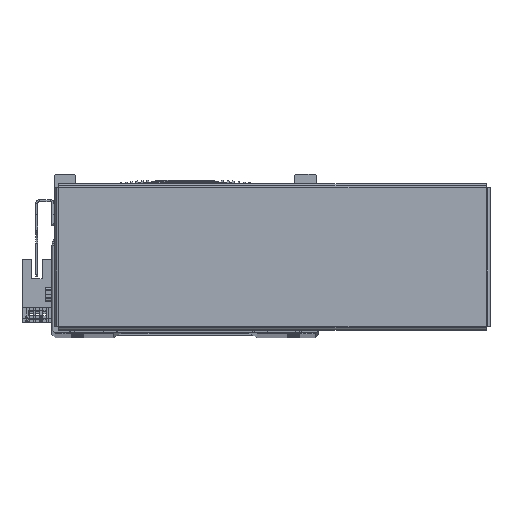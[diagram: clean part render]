
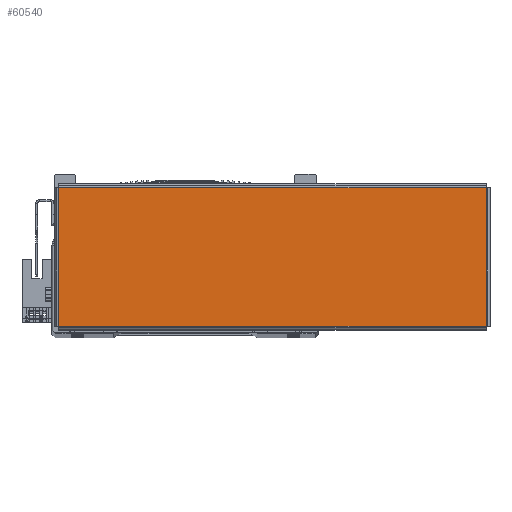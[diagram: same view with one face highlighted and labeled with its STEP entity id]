
A CAD part, top view. The second image highlights one B-rep face of the part: STEP entity #60540.
In plain terms, the highlighted planar face has unit normal (0, 0, 1) as drawn and (0, 0, -1) by its records, which use the part's own axes.
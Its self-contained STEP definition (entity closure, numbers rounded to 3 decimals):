
#3774 = FACE_OUTER_BOUND ( 'NONE', #62377, .T. ) ;
#18189 = CARTESIAN_POINT ( 'NONE',  ( -97.863, -31.793, -1. ) ) ;
#18198 = DIRECTION ( 'NONE',  ( 0., 1., 0. ) ) ;
#18201 = CARTESIAN_POINT ( 'NONE',  ( 97.893, -31.763, -1. ) ) ;
#18223 = DIRECTION ( 'NONE',  ( -1., 0., 0. ) ) ;
#18587 = CARTESIAN_POINT ( 'NONE',  ( 97.863, 31.793, -1. ) ) ;
#18614 = DIRECTION ( 'NONE',  ( 0., -1., 0. ) ) ;
#40199 = DIRECTION ( 'NONE',  ( 0., 0., 1. ) ) ;
#40209 = CARTESIAN_POINT ( 'NONE',  ( 0., 0., -1. ) ) ;
#40214 = DIRECTION ( 'NONE',  ( 1., 0., 0. ) ) ;
#40238 = PLANE ( 'NONE',  #59361 ) ;
#47720 = DIRECTION ( 'NONE',  ( 1., 0., 0. ) ) ;
#47728 = CARTESIAN_POINT ( 'NONE',  ( -97.893, 31.763, -1. ) ) ;
#53448 = LINE ( 'NONE', #47728, #53461 ) ;
#53461 = VECTOR ( 'NONE', #47720, 1000. ) ;
#53510 = VECTOR ( 'NONE', #18198, 1000. ) ;
#53523 = VECTOR ( 'NONE', #18223, 1000. ) ;
#53524 = LINE ( 'NONE', #18189, #53510 ) ;
#53551 = LINE ( 'NONE', #18201, #53523 ) ;
#53630 = LINE ( 'NONE', #18587, #53674 ) ;
#53674 = VECTOR ( 'NONE', #18614, 1000. ) ;
#58153 = CARTESIAN_POINT ( 'NONE',  ( -97.863, -31.763, -1. ) ) ;
#58160 = CARTESIAN_POINT ( 'NONE',  ( -97.863, 31.763, -1. ) ) ;
#58209 = CARTESIAN_POINT ( 'NONE',  ( 97.863, -31.763, -1. ) ) ;
#58273 = CARTESIAN_POINT ( 'NONE',  ( 97.863, 31.763, -1. ) ) ;
#59361 = AXIS2_PLACEMENT_3D ( 'NONE', #40209, #40199, #40214 ) ;
#60540 = ADVANCED_FACE ( 'NONE', ( #3774 ), #40238, .F. ) ;
#62377 = EDGE_LOOP ( 'NONE', ( #85078, #85071, #85128, #84919 ) ) ;
#75282 = VERTEX_POINT ( 'NONE', #58160 ) ;
#75331 = VERTEX_POINT ( 'NONE', #58153 ) ;
#75337 = VERTEX_POINT ( 'NONE', #58209 ) ;
#75374 = VERTEX_POINT ( 'NONE', #58273 ) ;
#77404 = EDGE_CURVE ( 'NONE', #75282, #75374, #53448, .T. ) ;
#77476 = EDGE_CURVE ( 'NONE', #75337, #75331, #53551, .T. ) ;
#77482 = EDGE_CURVE ( 'NONE', #75331, #75282, #53524, .T. ) ;
#77584 = EDGE_CURVE ( 'NONE', #75374, #75337, #53630, .T. ) ;
#84919 = ORIENTED_EDGE ( 'NONE', *, *, #77404, .T. ) ;
#85071 = ORIENTED_EDGE ( 'NONE', *, *, #77476, .T. ) ;
#85078 = ORIENTED_EDGE ( 'NONE', *, *, #77584, .T. ) ;
#85128 = ORIENTED_EDGE ( 'NONE', *, *, #77482, .T. ) ;
